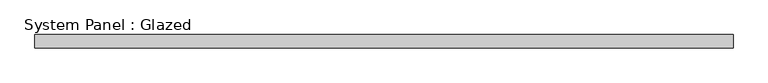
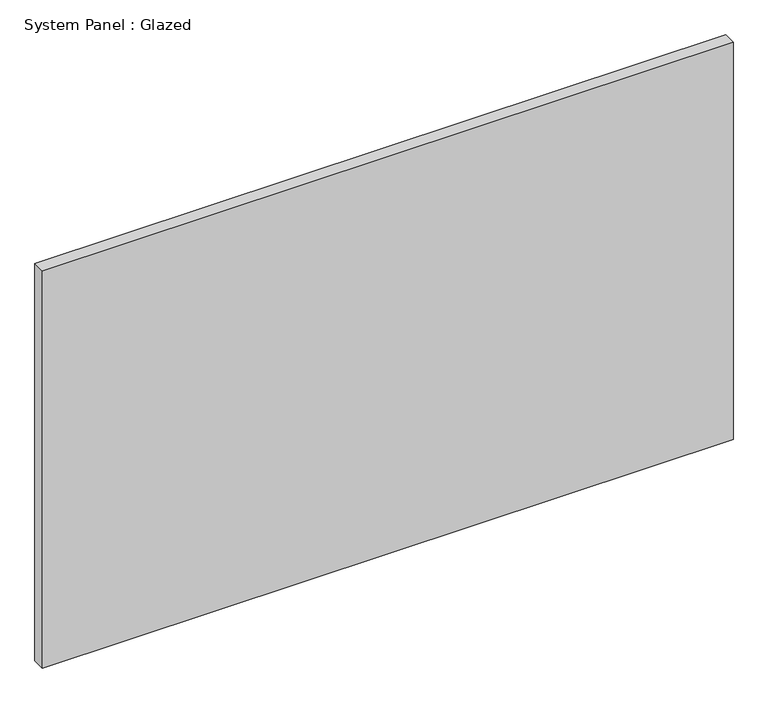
"""IFC4 building model written with IfcOpenShell, lengths in millimetres: plate geometry, System Panel : Glazed."""

import ifcopenshell
import ifcopenshell.guid

model = None  # the IFC model being written
_history = None  # IfcOwnerHistory: only IFC2X3 demands one
_inside = {}  # id of a spatial element -> (the spatial element, [elements in it])
_under = {}  # id of a project, library or spatial element -> (it, [spatial elements below it])
_declared = {}  # id of a project -> (the project, [libraries it declares])
_typed = {}  # id of a type object -> (the type object, [elements of that type])
_made_of = {}  # id of a material, layer set ... -> (it, [elements and type objects made of it])


def new_model(schema):
    """Start an empty IFC model of exactly this schema.

    Asked for "IFC4X3", IfcOpenShell would pick the latest addendum, in which some entities
    have other attributes; the version numbers below select the first issue.
    IFC2X3 requires an IfcOwnerHistory on every rooted entity: one is made here for all.
    """
    global model, _history
    if schema == "IFC4X3":
        model = ifcopenshell.file(schema_version=(4, 3, 0, 0))
    else:
        model = ifcopenshell.file(schema=schema)
    _inside.clear()
    _under.clear()
    _declared.clear()
    _typed.clear()
    _made_of.clear()
    _history = None
    if model.schema == "IFC2X3":
        org = make("IfcOrganization", Name="unknown")
        user = make(
            "IfcPersonAndOrganization",
            ThePerson=make("IfcPerson", FamilyName="unknown"),
            TheOrganization=org,
        )
        app = make(
            "IfcApplication",
            ApplicationDeveloper=org,
            Version="unknown",
            ApplicationFullName="unknown",
            ApplicationIdentifier="unknown",
        )
        _history = make(
            "IfcOwnerHistory",
            OwningUser=user,
            OwningApplication=app,
            ChangeAction="ADDED",
            CreationDate=0,
        )
    return model


def make(cls, **values):
    """One entity of the class cls with the attributes given. An attribute that is None is left unset."""
    return model.create_entity(
        cls, **{name: value for name, value in values.items() if value is not None}
    )


def rooted(cls, **values):
    """An entity with a GlobalId (a new one), such as an element, a storey or a relation."""
    return make(cls, GlobalId=ifcopenshell.guid.new(), OwnerHistory=_history, **values)


def si_unit(unit_type, name, prefix=None):
    """IfcSIUnit, for example si_unit("LENGTHUNIT", "METRE", prefix="MILLI")."""
    return make("IfcSIUnit", UnitType=unit_type, Prefix=prefix, Name=name)


def assignment(units):
    """IfcUnitAssignment: the units of a project."""
    return None if units is None else make("IfcUnitAssignment", Units=units)


def point(xyz):
    """IfcCartesianPoint."""
    return None if xyz is None else make("IfcCartesianPoint", Coordinates=xyz)


def direction(xyz):
    """IfcDirection."""
    return None if xyz is None else make("IfcDirection", DirectionRatios=xyz)


def frame(location, z_axis=None, x_axis=None):
    """IfcAxis2Placement3D, a coordinate frame: its origin and axes. An axis left out is left unset."""
    return make(
        "IfcAxis2Placement3D",
        Location=point(location),
        Axis=direction(z_axis),
        RefDirection=direction(x_axis),
    )


def origin():
    """The frame at (0, 0, 0) with its axes left unset."""
    return frame((0.0, 0.0, 0.0))


def origin_with_axes():
    """The frame at (0, 0, 0) with the z axis (0, 0, 1) and the x axis (1, 0, 0) written out."""
    return frame((0.0, 0.0, 0.0), z_axis=(0.0, 0.0, 1.0), x_axis=(1.0, 0.0, 0.0))


def place(relative_to, where):
    """IfcLocalPlacement: puts the frame where relative to a parent placement (None: the world)."""
    return make(
        "IfcLocalPlacement", PlacementRelTo=relative_to, RelativePlacement=where
    )


def context(
    kind, dimensions, precision=None, world=None, true_north=None, identifier=None
):
    """IfcGeometricRepresentationContext, for example the 3D "Model" context."""
    return make(
        "IfcGeometricRepresentationContext",
        ContextIdentifier=identifier,
        ContextType=kind,
        CoordinateSpaceDimension=dimensions,
        Precision=precision,
        WorldCoordinateSystem=world,
        TrueNorth=true_north,
    )


def project(units=None, contexts=None):
    """IfcProject with its units and contexts."""
    return rooted(
        "IfcProject",
        Name="project",
        RepresentationContexts=contexts,
        UnitsInContext=assignment(units),
    )


def spatial(cls, under=None, at=None, **own):
    """A site, building, storey or space (cls), placed at a placement, below another one or the project."""
    s = rooted(cls, ObjectPlacement=at, **own)
    if under is not None:
        _under.setdefault(under.id(), (under, []))[1].append(s)
    return s


def polyline(points):
    """IfcPolyline through the points."""
    return make("IfcPolyline", Points=[point(p) for p in points])


def outline(outer, holes=None, kind="AREA"):
    """IfcArbitraryClosedProfileDef: a profile drawn as a closed curve; with holes, ...WithVoids."""
    if holes is None:
        return make("IfcArbitraryClosedProfileDef", ProfileType=kind, OuterCurve=outer)
    return make(
        "IfcArbitraryProfileDefWithVoids",
        ProfileType=kind,
        OuterCurve=outer,
        InnerCurves=holes,
    )


def extrude(swept, where, along, depth):
    """IfcExtrudedAreaSolid: the profile swept, set in the frame where, extruded along a direction by depth."""
    return make(
        "IfcExtrudedAreaSolid",
        SweptArea=swept,
        Position=where,
        ExtrudedDirection=direction(along),
        Depth=depth,
    )


def shape(context_of_items, identifier, shape_type, items):
    """IfcShapeRepresentation: the items that make up one representation, for example the "Body"."""
    return make(
        "IfcShapeRepresentation",
        ContextOfItems=context_of_items,
        RepresentationIdentifier=identifier,
        RepresentationType=shape_type,
        Items=items,
    )


def source(mapping_origin, context_of_items, identifier, shape_type, items):
    """IfcRepresentationMap: a shape defined once, which mapped items show again and again."""
    return make(
        "IfcRepresentationMap",
        MappingOrigin=mapping_origin,
        MappedRepresentation=shape(context_of_items, identifier, shape_type, items),
    )


def transform(
    local_origin,
    x_axis=None,
    y_axis=None,
    z_axis=None,
    scale=None,
    scale2=None,
    scale3=None,
    uniform=True,
):
    """IfcCartesianTransformationOperator3D, or its non-uniform kind. x_axis, y_axis, z_axis: its Axis1, 2, 3."""
    if uniform:
        return make(
            "IfcCartesianTransformationOperator3D",
            Axis1=direction(x_axis),
            Axis2=direction(y_axis),
            LocalOrigin=point(local_origin),
            Scale=scale,
            Axis3=direction(z_axis),
        )
    return make(
        "IfcCartesianTransformationOperator3DnonUniform",
        Axis1=direction(x_axis),
        Axis2=direction(y_axis),
        LocalOrigin=point(local_origin),
        Scale=scale,
        Axis3=direction(z_axis),
        Scale2=scale2,
        Scale3=scale3,
    )


def mapped(mapping_source, mapping_target):
    """IfcMappedItem: shows the shape of a source again, moved by a transform."""
    return make(
        "IfcMappedItem", MappingSource=mapping_source, MappingTarget=mapping_target
    )


def made_of(thing, what):
    """Note that an element or type object is made of a material, layer set ...; save() writes the relation."""
    if what is not None:
        _made_of.setdefault(what.id(), (what, []))[1].append(thing)
    return thing


def element(
    cls,
    number,
    at=None,
    inside=None,
    cuts=None,
    type_object=None,
    material=None,
    context=None,
    identifier="Body",
    shape_type=None,
    held_by="IfcProductDefinitionShape",
    body=None,
    shapes=None,
    **own,
):
    """One element of the class cls, such as IfcWall. Its Tag is "e" and its number.

    at: its placement. inside: the storey or other place that contains it. cuts: it is an
    opening in that element (IfcRelVoidsElement). A single representation is given by context,
    identifier, shape_type and body (its items); several are given by shapes. held_by: the class
    of the entity that holds the representations. save() writes the other relations.
    """
    e = rooted(cls, Tag="e%d" % number, ObjectPlacement=at, **own)
    if body is not None:
        shapes = [shape(context, identifier, shape_type, body)]
    if shapes is not None:
        e.Representation = make(held_by, Representations=shapes)
    if inside is not None:
        _inside.setdefault(inside.id(), (inside, []))[1].append(e)
    if cuts is not None:
        rooted(
            "IfcRelVoidsElement", RelatingBuildingElement=cuts, RelatedOpeningElement=e
        )
    if type_object is not None:
        _typed.setdefault(type_object.id(), (type_object, []))[1].append(e)
    return made_of(e, material)


def aggregate(whole, parts):
    """IfcRelAggregates: a whole, such as a stair, and the parts it consists of."""
    return rooted("IfcRelAggregates", RelatingObject=whole, RelatedObjects=parts)


def save(model, path):
    """Write the relations noted so far, then the file.

    IfcRelAggregates (storeys below a building ...), IfcRelContainedInSpatialStructure (elements
    in a storey), IfcRelDefinesByType, IfcRelAssociatesMaterial and IfcRelDeclares: one each for
    every whole, place, type object, material and project.
    """
    for whole, parts in _under.values():
        aggregate(whole, parts)
    for where, things in _inside.values():
        rooted(
            "IfcRelContainedInSpatialStructure",
            RelatedElements=things,
            RelatingStructure=where,
        )
    for kind, things in _typed.values():
        rooted("IfcRelDefinesByType", RelatedObjects=things, RelatingType=kind)
    for what, things in _made_of.values():
        rooted("IfcRelAssociatesMaterial", RelatedObjects=things, RelatingMaterial=what)
    for by, libraries in _declared.values():
        rooted("IfcRelDeclares", RelatingContext=by, RelatedDefinitions=libraries)
    model.write(path)


def system_panel_glazed_5aa6dd2a(model_context):
    return source(origin(), model_context, "Body", "SweptSolid", [
        extrude(outline(polyline([(669.5386914, 19.05), (-669.5386914, 19.05), (-669.5386914, 44.45), (669.5386914, 44.45), (669.5386914, 19.05)])), origin_with_axes(), (0.0, 0.0, 1.0), 814.714222),
    ])


if __name__ == "__main__":
    model = new_model("IFC4")
    model_context = context("Model", 3, world=origin())
    ifc_project = project(units=[si_unit("LENGTHUNIT", "METRE", prefix="MILLI")], contexts=[model_context])
    site = spatial("IfcSite", under=ifc_project)
    building = spatial("IfcBuilding", under=site)
    placement = place(None, origin())
    system_panel_glazed_shape = system_panel_glazed_5aa6dd2a(model_context)
    element("IfcPlate", 1, ObjectType="System Panel : Glazed", at=placement, inside=building, context=model_context, shape_type="MappedRepresentation", body=[
        mapped(system_panel_glazed_shape, transform((0.0, 0.0, 0.0), x_axis=(1.0, 0.0, 0.0), y_axis=(0.0, 1.0, 0.0), z_axis=(0.0, 0.0, 1.0))),
    ])
    save(model, "model.ifc")
